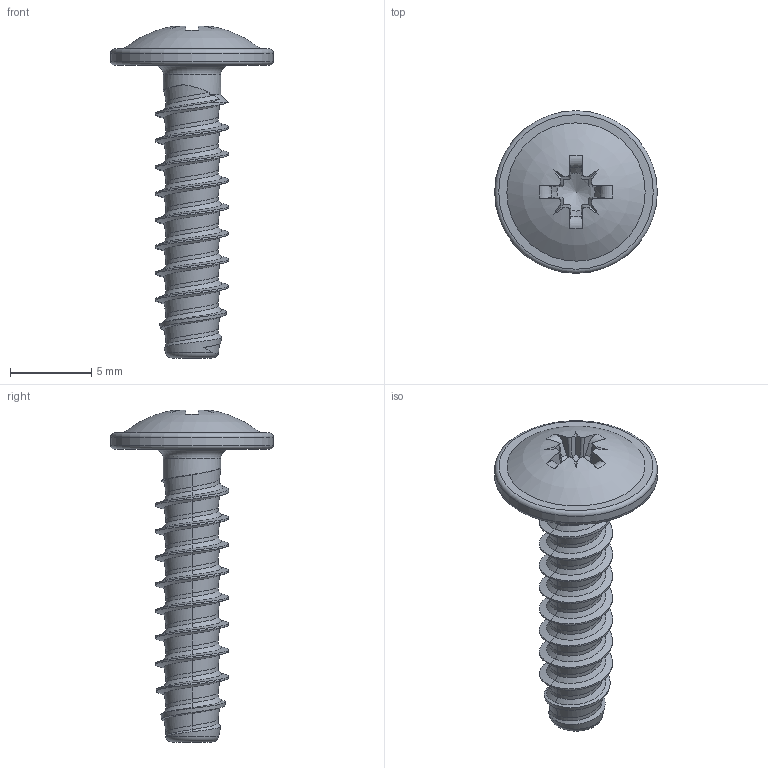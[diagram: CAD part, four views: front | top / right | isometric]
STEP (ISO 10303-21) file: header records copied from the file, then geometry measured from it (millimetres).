
FILE_DESCRIPTION(/* description */ (''),/* implementation_level */ '2;1');
FILE_NAME(/* name */ 'KN6031-STSplus-45x18-Z2.step',/* time_stamp */ '2017-10-09T16:55:07+02:00',/* author */ (''),/* organization */ (''),/* preprocessor_version */ 'ST-DEVELOPER v16',/* originating_system */ 'SIEMENS PLM Software NX 10.0',/* authorisation */ '');
FILE_SCHEMA (('AUTOMOTIVE_DESIGN { 1 0 10303 214 3 1 1 1 }'));
Length unit declared in the file: millimetre
Products named in the file (1): KN6031-STSplus-45x18-Z2
Bounding box: 10 x 10 x 20.41 mm (x, y, z)
Volume: 288 mm3; surface area: 480.1 mm2
Topology: 1 solids, 1 shells, 108 faces, 270 edges, 165 vertices
Faces by surface type: bspline 54, plane 27, cylinder 11, torus 8, cone 7, sphere 1
Full cylindrical faces by diameter (mm): 3.53 x1, 10 x1
Entity records: 6273 total; most frequent: CARTESIAN_POINT 4140, ORIENTED_EDGE 512, DIRECTION 286, EDGE_CURVE 256, VERTEX_POINT 160, B_SPLINE_CURVE_WITH_KNOTS 128, EDGE_LOOP 117, ADVANCED_FACE 108
